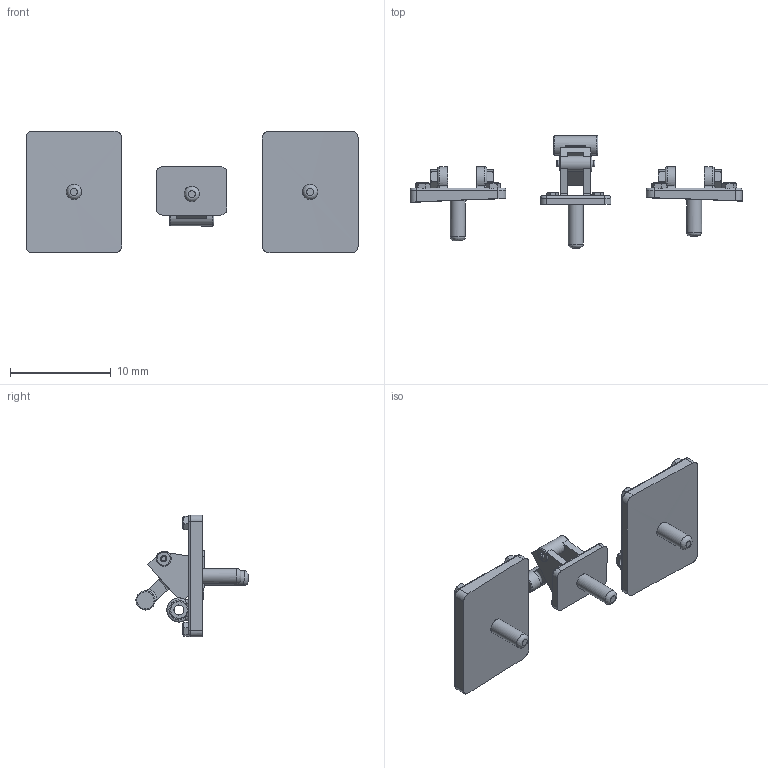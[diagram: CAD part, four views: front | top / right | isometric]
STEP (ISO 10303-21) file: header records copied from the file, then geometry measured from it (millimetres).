
FILE_DESCRIPTION(/* description */ ('','CAx-IF Rec.Pracs.---Representation and Presentation of Product Manufacturing Information (PMI)---4.0---2014-10-13'),/* implementation_level */ '2;1');
FILE_NAME(/* name */ '20elcomastfeet103.step',/* time_stamp */ '2025-03-10T16:16:57+11:00',/* author */ (''),/* organization */ (''),/* preprocessor_version */ 'ST-DEVELOPER v20',/* originating_system */ 'Autodesk Translation Framework v13.20.0.188',/* authorisation */ '');
FILE_SCHEMA (('AP242_MANAGED_MODEL_BASED_3D_ENGINEERING_MIM_LF { 1 0 10303 442 1 1 4 }'));
Length unit declared in the file: millimetre
Products named in the file (2): Elco Radar Mast solid; Component1
Assembly tree (1 placements, depth 2):
  Elco Radar Mast solid
    Component1
Bounding box: 33 x 11.15 x 12.11 mm (x, y, z)
Volume: 380.3 mm3; surface area: 914.4 mm2
Topology: 3 solids, 3 shells, 305 faces, 828 edges, 537 vertices
Faces by surface type: plane 155, cylinder 79, torus 60, bspline 11
Full cylindrical faces by diameter (mm): 0.635 x2, 1 x4, 1.5 x4, 1.905 x1
Entity records: 12144 total; most frequent: CARTESIAN_POINT 4637, ORIENTED_EDGE 1656, DIRECTION 1436, EDGE_CURVE 828, VERTEX_POINT 537, AXIS2_PLACEMENT_3D 533, LINE 370, VECTOR 370
